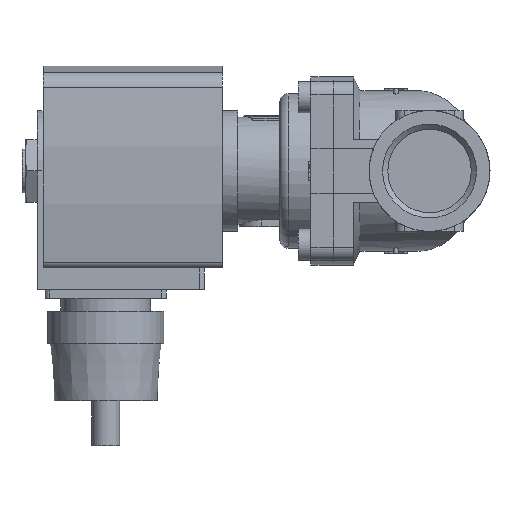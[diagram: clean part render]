
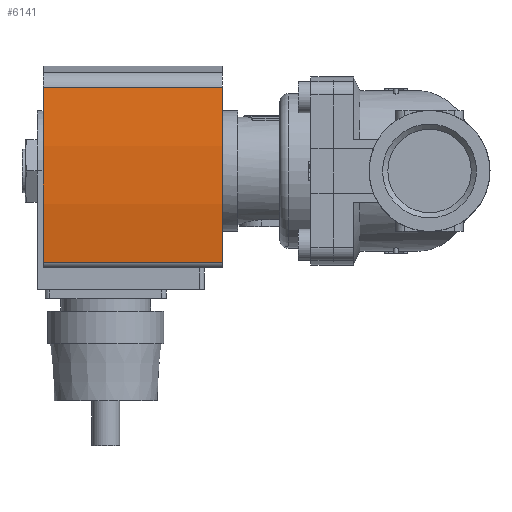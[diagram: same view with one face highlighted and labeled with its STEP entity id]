
A CAD part, left-side view. The second image highlights one B-rep face of the part: STEP entity #6141.
In plain terms, the highlighted cylindrical face has radius 130 mm (diameter 260 mm), a partial arc.
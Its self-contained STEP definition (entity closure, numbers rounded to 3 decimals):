
#232=CYLINDRICAL_SURFACE('',#6681,130.);
#640=LINE('',#9892,#1068);
#641=LINE('',#9896,#1069);
#1068=VECTOR('',#8111,1000.);
#1069=VECTOR('',#8116,1000.);
#2410=ORIENTED_EDGE('',*,*,#3267,.T.);
#2411=ORIENTED_EDGE('',*,*,#3268,.F.);
#2412=ORIENTED_EDGE('',*,*,#3256,.F.);
#2413=ORIENTED_EDGE('',*,*,#3266,.T.);
#3256=EDGE_CURVE('',#3788,#3789,#4021,.T.);
#3266=EDGE_CURVE('',#3788,#3795,#640,.T.);
#3267=EDGE_CURVE('',#3795,#3796,#4029,.T.);
#3268=EDGE_CURVE('',#3789,#3796,#641,.T.);
#3788=VERTEX_POINT('',#9872);
#3789=VERTEX_POINT('',#9874);
#3795=VERTEX_POINT('',#9891);
#3796=VERTEX_POINT('',#9895);
#4021=CIRCLE('',#6671,130.);
#4029=CIRCLE('',#6682,130.);
#4347=EDGE_LOOP('',(#2410,#2411,#2412,#2413));
#4691=FACE_BOUND('',#4347,.T.);
#6141=ADVANCED_FACE('',(#4691),#232,.T.);
#6671=AXIS2_PLACEMENT_3D('',#9873,#8089,#8090);
#6681=AXIS2_PLACEMENT_3D('',#9893,#8112,#8113);
#6682=AXIS2_PLACEMENT_3D('',#9894,#8114,#8115);
#8089=DIRECTION('',(0.,1.,0.));
#8090=DIRECTION('',(1.,0.,0.));
#8111=DIRECTION('',(0.,-1.,0.));
#8112=DIRECTION('',(0.,-1.,0.));
#8113=DIRECTION('',(0.,0.,-1.));
#8114=DIRECTION('',(0.,1.,0.));
#8115=DIRECTION('',(1.,0.,0.));
#8116=DIRECTION('',(0.,-1.,0.));
#9872=CARTESIAN_POINT('',(-20.382,14.,18.392));
#9873=CARTESIAN_POINT('',(0.,14.,-110.));
#9874=CARTESIAN_POINT('',(18.639,14.,18.657));
#9891=CARTESIAN_POINT('',(-20.382,-26.,18.392));
#9892=CARTESIAN_POINT('',(-20.382,14.,18.392));
#9893=CARTESIAN_POINT('',(0.,14.,-110.));
#9894=CARTESIAN_POINT('',(0.,-26.,-110.));
#9895=CARTESIAN_POINT('',(18.639,-26.,18.657));
#9896=CARTESIAN_POINT('',(18.639,14.,18.657));
